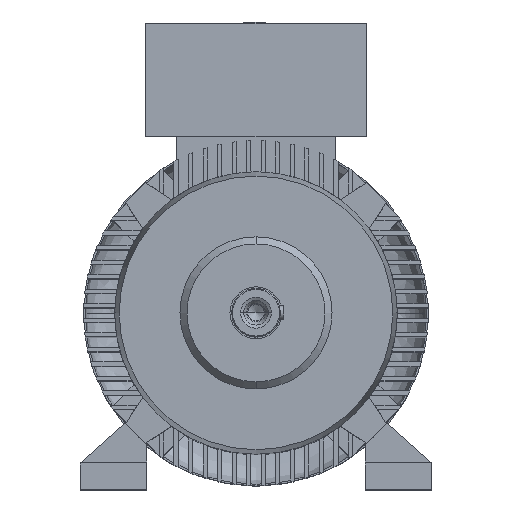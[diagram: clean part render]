
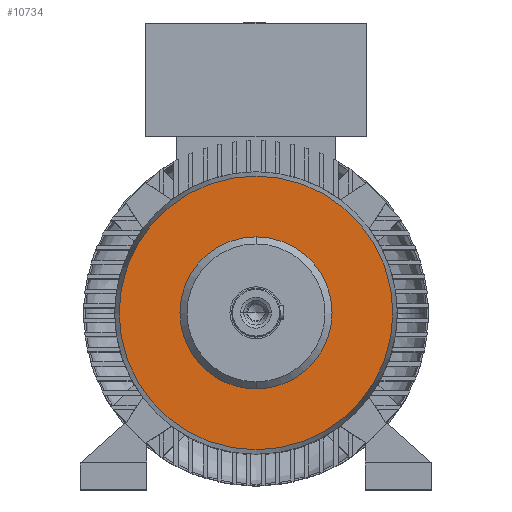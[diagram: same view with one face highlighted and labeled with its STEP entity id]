
A CAD part, top view. The second image highlights one B-rep face of the part: STEP entity #10734.
In plain terms, the highlighted planar face has unit normal (0, 0, 1).
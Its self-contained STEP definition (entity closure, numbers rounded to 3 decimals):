
#260 = CARTESIAN_POINT ( 'NONE',  ( 0., -86.2, 275.5 ) ) ;
#948 = DIRECTION ( 'NONE',  ( 0., 0., -1. ) ) ;
#1395 = AXIS2_PLACEMENT_3D ( 'NONE', #19454, #17440, #25658 ) ;
#1964 = EDGE_CURVE ( 'NONE', #10750, #16226, #18862, .T. ) ;
#3564 = CARTESIAN_POINT ( 'NONE',  ( 0., 0., 275.5 ) ) ;
#3742 = AXIS2_PLACEMENT_3D ( 'NONE', #3564, #7476, #5589 ) ;
#4944 = EDGE_CURVE ( 'NONE', #19512, #7948, #19607, .T. ) ;
#5589 = DIRECTION ( 'NONE',  ( 0., 1., 0. ) ) ;
#6032 = EDGE_CURVE ( 'NONE', #7948, #19512, #11537, .T. ) ;
#6469 = ORIENTED_EDGE ( 'NONE', *, *, #1964, .F. ) ;
#7462 = CARTESIAN_POINT ( 'NONE',  ( 155.159, 0., 275.5 ) ) ;
#7476 = DIRECTION ( 'NONE',  ( 0., 0., -1. ) ) ;
#7937 = FACE_BOUND ( 'NONE', #11104, .T. ) ;
#7948 = VERTEX_POINT ( 'NONE', #11829 ) ;
#8534 = EDGE_CURVE ( 'NONE', #16226, #10750, #14516, .T. ) ;
#9032 = ORIENTED_EDGE ( 'NONE', *, *, #4944, .F. ) ;
#9075 = CARTESIAN_POINT ( 'NONE',  ( 0., 0., 275.5 ) ) ;
#10360 = DIRECTION ( 'NONE',  ( 0., 1., 0. ) ) ;
#10734 = ADVANCED_FACE ( 'NONE', ( #17507, #7937 ), #20844, .F. ) ;
#10750 = VERTEX_POINT ( 'NONE', #21394 ) ;
#11104 = EDGE_LOOP ( 'NONE', ( #6469, #18800 ) ) ;
#11490 = AXIS2_PLACEMENT_3D ( 'NONE', #9075, #24603, #16751 ) ;
#11537 = CIRCLE ( 'NONE', #3742, 155.159 ) ;
#11829 = CARTESIAN_POINT ( 'NONE',  ( -155.159, 0., 275.5 ) ) ;
#12422 = CARTESIAN_POINT ( 'NONE',  ( 0., 0., 275.5 ) ) ;
#12851 = DIRECTION ( 'NONE',  ( 0., 1., 0. ) ) ;
#14516 = CIRCLE ( 'NONE', #14669, 86.2 ) ;
#14637 = EDGE_LOOP ( 'NONE', ( #18384, #9032 ) ) ;
#14669 = AXIS2_PLACEMENT_3D ( 'NONE', #12422, #22166, #10360 ) ;
#15889 = AXIS2_PLACEMENT_3D ( 'NONE', #24859, #948, #12851 ) ;
#16226 = VERTEX_POINT ( 'NONE', #260 ) ;
#16751 = DIRECTION ( 'NONE',  ( 0., 1., 0. ) ) ;
#17440 = DIRECTION ( 'NONE',  ( 0., 0., -1. ) ) ;
#17507 = FACE_OUTER_BOUND ( 'NONE', #14637, .T. ) ;
#18384 = ORIENTED_EDGE ( 'NONE', *, *, #6032, .F. ) ;
#18800 = ORIENTED_EDGE ( 'NONE', *, *, #8534, .F. ) ;
#18862 = CIRCLE ( 'NONE', #11490, 86.2 ) ;
#19454 = CARTESIAN_POINT ( 'NONE',  ( 0., 0., 275.5 ) ) ;
#19512 = VERTEX_POINT ( 'NONE', #7462 ) ;
#19607 = CIRCLE ( 'NONE', #1395, 155.159 ) ;
#20844 = PLANE ( 'NONE',  #15889 ) ;
#21394 = CARTESIAN_POINT ( 'NONE',  ( 0., 86.2, 275.5 ) ) ;
#22166 = DIRECTION ( 'NONE',  ( 0., 0., 1. ) ) ;
#24603 = DIRECTION ( 'NONE',  ( 0., 0., 1. ) ) ;
#24859 = CARTESIAN_POINT ( 'NONE',  ( 0., 155.159, 275.5 ) ) ;
#25658 = DIRECTION ( 'NONE',  ( 0., 1., 0. ) ) ;
